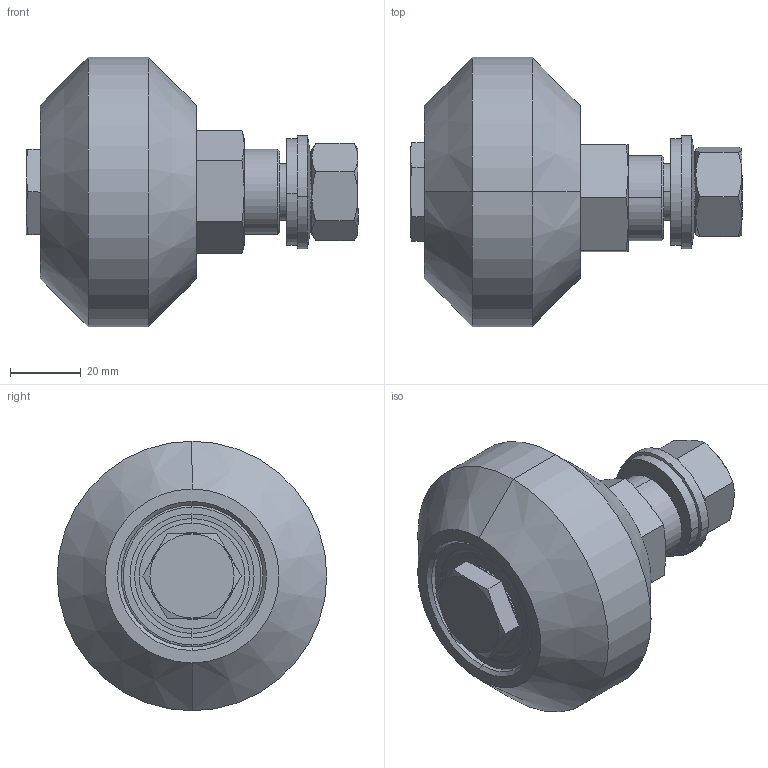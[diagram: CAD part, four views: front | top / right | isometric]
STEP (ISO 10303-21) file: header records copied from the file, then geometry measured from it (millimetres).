
FILE_DESCRIPTION (( 'STEP AP203' ), '1' );
FILE_NAME ('084.530.007.STEP', '2015-05-06T06:46:03', ( '' ), ( '' ), 'SwSTEP 2.0', 'SolidWorks 2012', '' );
FILE_SCHEMA (( 'CONFIG_CONTROL_DESIGN' ));
Length unit declared in the file: millimetre
Products named in the file (1): 084.530.007
Bounding box: 93.6 x 76 x 76 mm (x, y, z)
Surface area: 29282.1 mm2 (no closed solid volume)
Topology: 0 solids, 13 shells, 146 faces, 616 edges, 483 vertices
Faces by surface type: plane 59, cone 47, cylinder 24, bspline 16
Entity records: 7270 total; most frequent: CARTESIAN_POINT 2477, DIRECTION 977, ORIENTED_EDGE 863, EDGE_CURVE 616, VERTEX_POINT 483, AXIS2_PLACEMENT_3D 416, CIRCLE 285, B_SPLINE_CURVE_WITH_KNOTS 180
